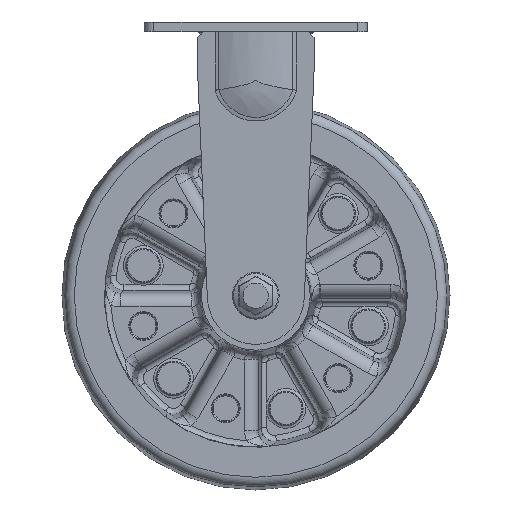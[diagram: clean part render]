
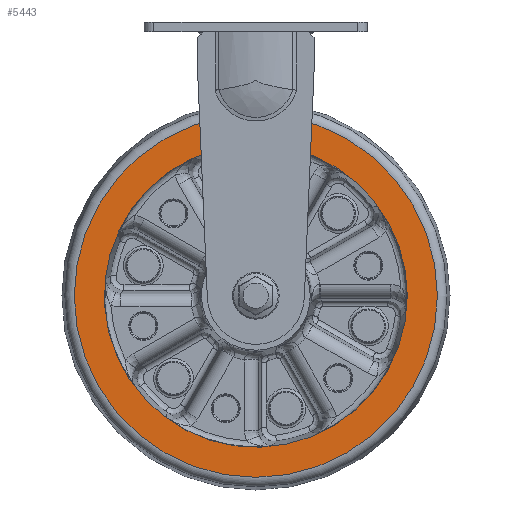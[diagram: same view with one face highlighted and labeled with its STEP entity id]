
A CAD part, front view. The second image highlights one B-rep face of the part: STEP entity #5443.
In plain terms, the highlighted planar face has unit normal (0, -1, 0).
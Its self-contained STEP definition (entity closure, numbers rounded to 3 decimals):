
#151=CARTESIAN_POINT('',(-93.486,-20.5,-138.5));
#152=VERTEX_POINT('',#151);
#153=CARTESIAN_POINT('',(-0.001,-20.5,-138.5));
#154=DIRECTION('',(0.0,1.0,0.0));
#155=DIRECTION('',(-1.0,0.0,0.0));
#156=AXIS2_PLACEMENT_3D('',#153,#154,#155);
#157=CIRCLE('',#156,93.485);
#158=EDGE_CURVE('',#152,#152,#157,.T.);
#1049=CARTESIAN_POINT('',(77.999,-20.5,-138.5));
#1050=VERTEX_POINT('',#1049);
#1051=CARTESIAN_POINT('',(-0.001,-20.5,-138.5));
#1052=DIRECTION('',(0.0,-1.0,0.0));
#1053=DIRECTION('',(-1.0,0.0,0.0));
#1054=AXIS2_PLACEMENT_3D('',#1051,#1052,#1053);
#1055=CIRCLE('',#1054,78.);
#1056=EDGE_CURVE('',#1050,#1050,#1055,.T.);
#5432=CARTESIAN_POINT('',(-81.258,-20.5,-138.5));
#5433=DIRECTION('',(0.0,1.0,0.0));
#5434=DIRECTION('',(0.0,0.0,-1.0));
#5435=AXIS2_PLACEMENT_3D('',#5432,#5433,#5434);
#5436=PLANE('',#5435);
#5437=ORIENTED_EDGE('',*,*,#158,.F.);
#5438=EDGE_LOOP('',(#5437));
#5439=FACE_OUTER_BOUND('',#5438,.T.);
#5440=ORIENTED_EDGE('',*,*,#1056,.F.);
#5441=EDGE_LOOP('',(#5440));
#5442=FACE_BOUND('',#5441,.T.);
#5443=ADVANCED_FACE('',(#5439,#5442),#5436,.F.);
